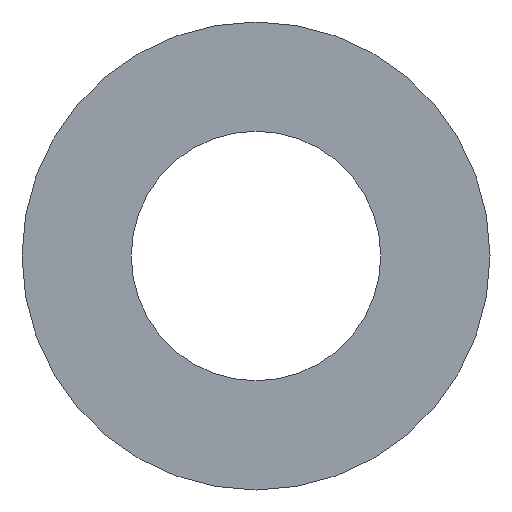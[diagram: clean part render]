
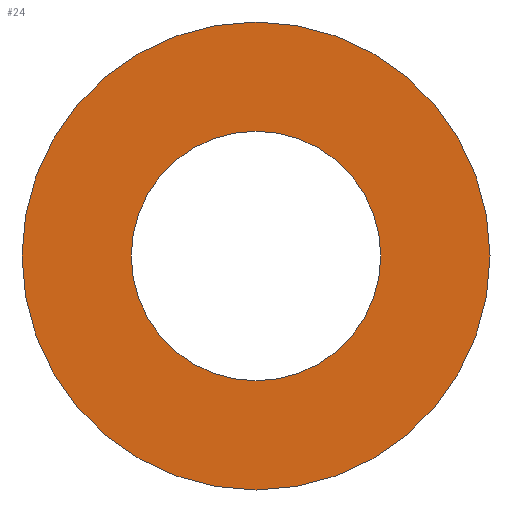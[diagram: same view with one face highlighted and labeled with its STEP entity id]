
A CAD part, front view. The second image highlights one B-rep face of the part: STEP entity #24.
In plain terms, the highlighted planar face has unit normal (0, -1, 0).
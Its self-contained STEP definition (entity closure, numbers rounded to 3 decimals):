
#7 = EDGE_CURVE ( 'NONE', #219, #144, #178, .T. ) ;
#9 = ORIENTED_EDGE ( 'NONE', *, *, #205, .F. ) ;
#19 = VERTEX_POINT ( 'NONE', #127 ) ;
#24 = ADVANCED_FACE ( 'NONE', ( #197, #168 ), #102, .F. ) ;
#37 = VERTEX_POINT ( 'NONE', #82 ) ;
#44 = DIRECTION ( 'NONE',  ( 0., 0., 1. ) ) ;
#61 = EDGE_LOOP ( 'NONE', ( #215, #9 ) ) ;
#67 = AXIS2_PLACEMENT_3D ( 'NONE', #94, #93, #91 ) ;
#70 = AXIS2_PLACEMENT_3D ( 'NONE', #113, #110, #100 ) ;
#71 = DIRECTION ( 'NONE',  ( 0., 0., 1. ) ) ;
#73 = AXIS2_PLACEMENT_3D ( 'NONE', #149, #148, #147 ) ;
#77 = CARTESIAN_POINT ( 'NONE',  ( 0., 0., -1.6 ) ) ;
#82 = CARTESIAN_POINT ( 'NONE',  ( 0., 0., 3. ) ) ;
#86 = DIRECTION ( 'NONE',  ( 0., 1., 0. ) ) ;
#90 = CARTESIAN_POINT ( 'NONE',  ( 0., 0., 0. ) ) ;
#91 = DIRECTION ( 'NONE',  ( 0., 0., 1. ) ) ;
#93 = DIRECTION ( 'NONE',  ( 0., 1., 0. ) ) ;
#94 = CARTESIAN_POINT ( 'NONE',  ( 0., 0., 0. ) ) ;
#100 = DIRECTION ( 'NONE',  ( 0., 0., 1. ) ) ;
#102 = PLANE ( 'NONE',  #125 ) ;
#110 = DIRECTION ( 'NONE',  ( 0., 1., 0. ) ) ;
#113 = CARTESIAN_POINT ( 'NONE',  ( 0., 0., 0. ) ) ;
#122 = CARTESIAN_POINT ( 'NONE',  ( 0., 0., 1.6 ) ) ;
#125 = AXIS2_PLACEMENT_3D ( 'NONE', #90, #169, #44 ) ;
#127 = CARTESIAN_POINT ( 'NONE',  ( 0., 0., -3. ) ) ;
#132 = CARTESIAN_POINT ( 'NONE',  ( 0., 0., 0. ) ) ;
#141 = EDGE_LOOP ( 'NONE', ( #220, #225 ) ) ;
#144 = VERTEX_POINT ( 'NONE', #77 ) ;
#147 = DIRECTION ( 'NONE',  ( 0., 0., 1. ) ) ;
#148 = DIRECTION ( 'NONE',  ( 0., 1., 0. ) ) ;
#149 = CARTESIAN_POINT ( 'NONE',  ( 0., 0., 0. ) ) ;
#150 = CIRCLE ( 'NONE', #70, 3. ) ;
#152 = AXIS2_PLACEMENT_3D ( 'NONE', #132, #86, #71 ) ;
#162 = CIRCLE ( 'NONE', #73, 3. ) ;
#168 = FACE_BOUND ( 'NONE', #141, .T. ) ;
#169 = DIRECTION ( 'NONE',  ( 0., 1., 0. ) ) ;
#178 = CIRCLE ( 'NONE', #152, 1.6 ) ;
#186 = EDGE_CURVE ( 'NONE', #19, #37, #162, .T. ) ;
#197 = FACE_OUTER_BOUND ( 'NONE', #61, .T. ) ;
#205 = EDGE_CURVE ( 'NONE', #37, #19, #150, .T. ) ;
#208 = EDGE_CURVE ( 'NONE', #144, #219, #210, .T. ) ;
#210 = CIRCLE ( 'NONE', #67, 1.6 ) ;
#215 = ORIENTED_EDGE ( 'NONE', *, *, #186, .F. ) ;
#219 = VERTEX_POINT ( 'NONE', #122 ) ;
#220 = ORIENTED_EDGE ( 'NONE', *, *, #208, .T. ) ;
#225 = ORIENTED_EDGE ( 'NONE', *, *, #7, .T. ) ;
